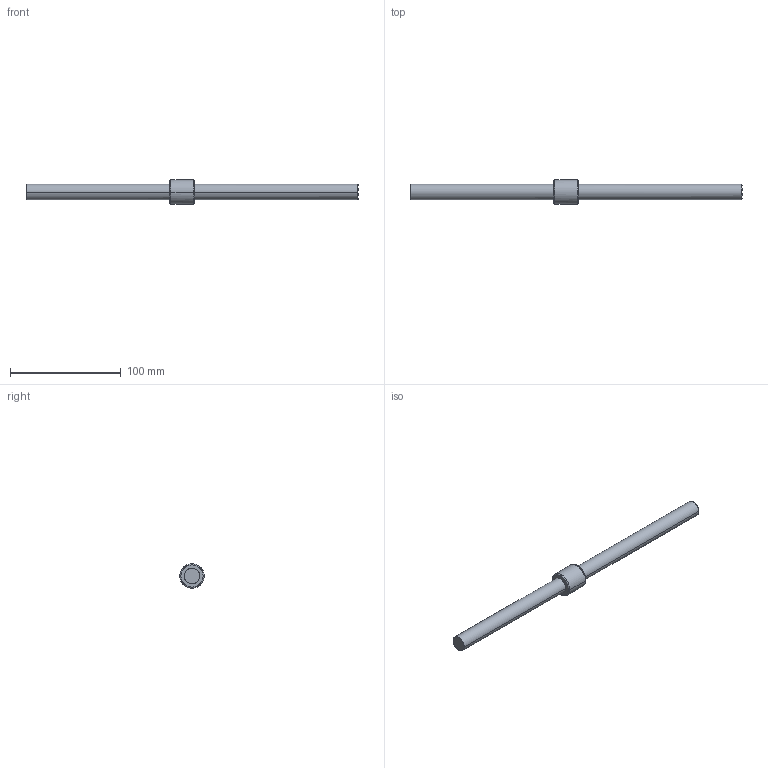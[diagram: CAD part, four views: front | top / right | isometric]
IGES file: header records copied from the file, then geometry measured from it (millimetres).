
Global section: file name: No Iges File Name specified; native system: AutoDesk Inventor R10; preprocessor: AutoDesk Inventor Iges Exporter R10; author: No Author specified; organization: No Organization specified; date: 20101224.154523; units: millimetre
Bounding box: 300 x 21.99 x 21.99 mm (x, y, z)
Surface area: 16382.9 mm2 (no closed solid volume)
Topology: 0 solids, 0 shells, 14 faces, 84 edges, 84 vertices
Faces by surface type: bspline 14
